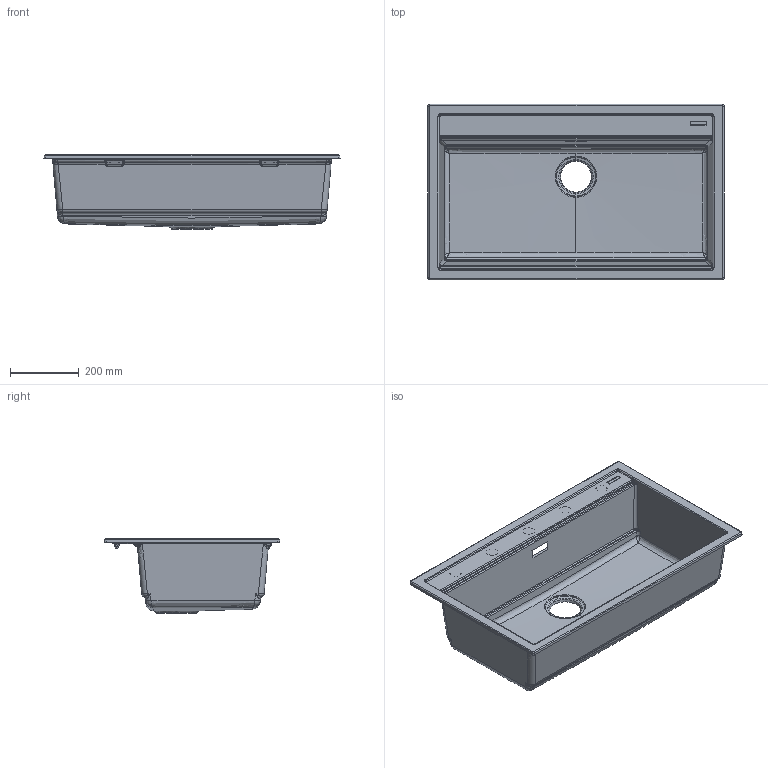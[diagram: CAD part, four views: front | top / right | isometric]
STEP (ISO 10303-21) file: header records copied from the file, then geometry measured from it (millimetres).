
FILE_DESCRIPTION(/* description */ (''),/* implementation_level */ '2;1');
FILE_NAME(/* name */ 'VSGX860N.stp',/* time_stamp */ '2021-05-08T11:30:42+02:00',/* author */ (''),/* organization */ (''),/* preprocessor_version */ 'ST-DEVELOPER v16',/* originating_system */ 'SIEMENS PLM Software NX 11.0',/* authorisation */ '');
FILE_SCHEMA (('AUTOMOTIVE_DESIGN { 1 0 10303 214 3 1 1 1 }'));
Length unit declared in the file: millimetre
Products named in the file (1): mart47D89A1Ds7b0
Bounding box: 859.93 x 509.93 x 215.27 mm (x, y, z)
Volume: 6617356 mm3; surface area: 1643336.4 mm2
Topology: 1 solids, 1 shells, 502 faces, 1222 edges, 689 vertices
Faces by surface type: bspline 233, cylinder 166, plane 62, cone 28, sphere 12, torus 1
Entity records: 32077 total; most frequent: CARTESIAN_POINT 22317, ORIENTED_EDGE 2332, DIRECTION 1654, EDGE_CURVE 1166, VERTEX_POINT 689, AXIS2_PLACEMENT_3D 676, EDGE_LOOP 529, ADVANCED_FACE 502
